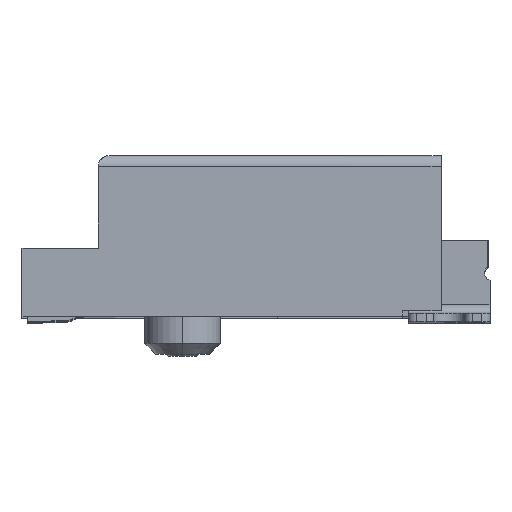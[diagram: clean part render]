
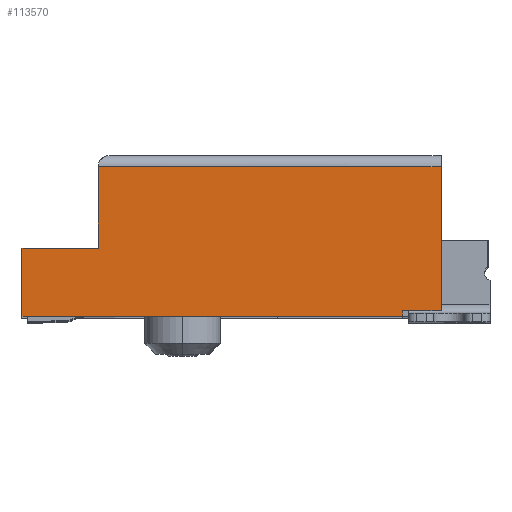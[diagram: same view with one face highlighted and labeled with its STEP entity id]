
A CAD part, top view. The second image highlights one B-rep face of the part: STEP entity #113570.
In plain terms, the highlighted planar face has unit normal (0, 0, 1).
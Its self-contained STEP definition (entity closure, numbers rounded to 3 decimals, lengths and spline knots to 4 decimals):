
#1853=DIRECTION('',(-1.,0.,0.));
#1854=VECTOR('',#1853,7.);
#1855=CARTESIAN_POINT('',(-0.7,0.,10.8));
#1856=LINE('',#1855,#1854);
#1857=DIRECTION('',(0.,1.,0.));
#1858=VECTOR('',#1857,1.25);
#1859=CARTESIAN_POINT('',(-7.7,0.,10.8));
#1860=LINE('',#1859,#1858);
#1861=DIRECTION('',(1.,0.,0.));
#1862=VECTOR('',#1861,1.4);
#1863=CARTESIAN_POINT('',(-7.7,1.25,10.8));
#1864=LINE('',#1863,#1862);
#1865=DIRECTION('',(0.,1.,0.));
#1866=VECTOR('',#1865,1.5);
#1867=CARTESIAN_POINT('',(-6.3,1.25,10.8));
#1868=LINE('',#1867,#1866);
#1869=DIRECTION('',(0.,-1.,0.));
#1870=VECTOR('',#1869,2.65);
#1871=CARTESIAN_POINT('',(0.,2.75,10.8));
#1872=LINE('',#1871,#1870);
#1873=DIRECTION('',(-1.,0.,0.));
#1874=VECTOR('',#1873,0.7);
#1875=CARTESIAN_POINT('',(0.,0.1,10.8));
#1876=LINE('',#1875,#1874);
#1881=DIRECTION('',(0.,1.,0.));
#1882=VECTOR('',#1881,0.1);
#1883=CARTESIAN_POINT('',(-0.7,0.,10.8));
#1884=LINE('',#1883,#1882);
#83542=DIRECTION('',(-1.,0.,0.));
#83543=VECTOR('',#83542,6.3);
#83544=CARTESIAN_POINT('',(0.,2.75,10.8));
#83545=LINE('',#83544,#83543);
#85901=CARTESIAN_POINT('',(0.,0.1,10.8));
#85902=VERTEX_POINT('',#85901);
#85903=CARTESIAN_POINT('',(0.,2.75,10.8));
#85904=VERTEX_POINT('',#85903);
#86106=CARTESIAN_POINT('',(-7.7,0.,10.8));
#86107=VERTEX_POINT('',#86106);
#86108=CARTESIAN_POINT('',(-0.7,0.,10.8));
#86109=VERTEX_POINT('',#86108);
#95890=CARTESIAN_POINT('',(-7.7,1.25,10.8));
#95891=CARTESIAN_POINT('',(-6.3,1.25,10.8));
#95892=VERTEX_POINT('',#95890);
#95893=VERTEX_POINT('',#95891);
#95898=CARTESIAN_POINT('',(-0.7,0.1,10.8));
#95899=VERTEX_POINT('',#95898);
#95900=CARTESIAN_POINT('',(-6.3,2.75,10.8));
#95901=VERTEX_POINT('',#95900);
#113549=CARTESIAN_POINT('',(-3.85,1.375,10.8));
#113550=DIRECTION('',(0.,0.,1.));
#113551=DIRECTION('',(1.,0.,0.));
#113552=AXIS2_PLACEMENT_3D('',#113549,#113550,#113551);
#113553=PLANE('',#113552);
#113555=ORIENTED_EDGE('',*,*,#113554,.F.);
#113557=ORIENTED_EDGE('',*,*,#113556,.T.);
#113559=ORIENTED_EDGE('',*,*,#113558,.T.);
#113561=ORIENTED_EDGE('',*,*,#113560,.T.);
#113562=ORIENTED_EDGE('',*,*,#113540,.T.);
#113564=ORIENTED_EDGE('',*,*,#113563,.F.);
#113565=ORIENTED_EDGE('',*,*,#112775,.T.);
#113567=ORIENTED_EDGE('',*,*,#113566,.T.);
#113568=EDGE_LOOP('',(#113555,#113557,#113559,#113561,#113562,#113564,#113565,
#113567));
#113569=FACE_OUTER_BOUND('',#113568,.F.);
#113570=ADVANCED_FACE('',(#113569),#113553,.T.);
#112775=EDGE_CURVE('',#85904,#85902,#1872,.T.);
#113540=EDGE_CURVE('',#95893,#95901,#1868,.T.);
#113554=EDGE_CURVE('',#86109,#95899,#1884,.T.);
#113556=EDGE_CURVE('',#86109,#86107,#1856,.T.);
#113558=EDGE_CURVE('',#86107,#95892,#1860,.T.);
#113560=EDGE_CURVE('',#95892,#95893,#1864,.T.);
#113563=EDGE_CURVE('',#85904,#95901,#83545,.T.);
#113566=EDGE_CURVE('',#85902,#95899,#1876,.T.);
